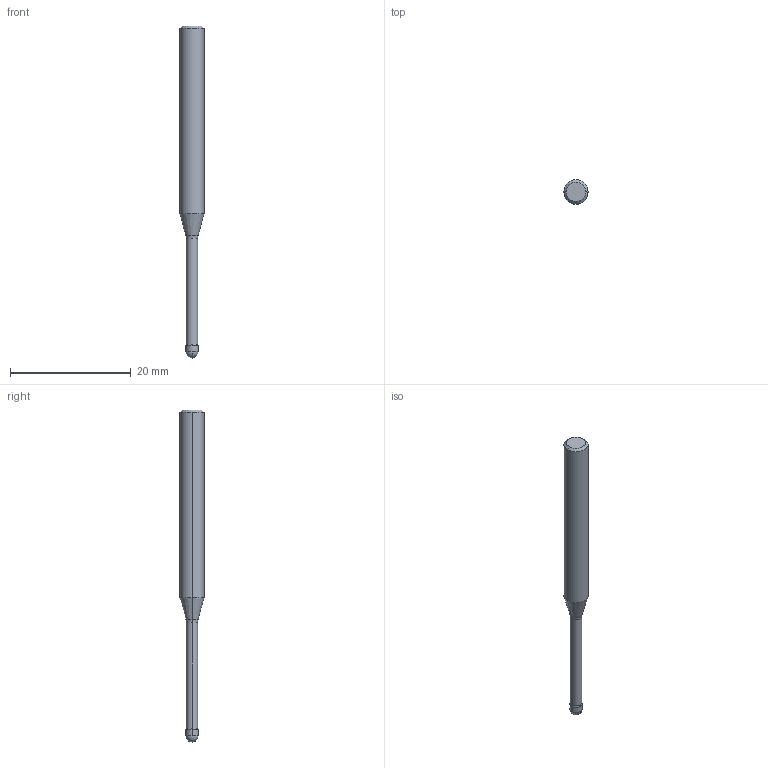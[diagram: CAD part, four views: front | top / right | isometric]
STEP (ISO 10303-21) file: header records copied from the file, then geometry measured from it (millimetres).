
FILE_DESCRIPTION (( 'STEP AP214' ), '1' );
FILE_NAME ('561.586.75_3D-model.step', '2022-02-18T17:43:06', ( '' ), ( '' ), 'SwSTEP 2.0', 'SolidWorks 2020', '' );
FILE_SCHEMA (( 'AUTOMOTIVE_DESIGN' ));
Length unit declared in the file: millimetre
Products named in the file (3): NOCUT-3D^Baugr37; 561.586.75_3D-model; CUT-3D^Baugr37
Assembly tree (2 placements, depth 2):
  561.586.75_3D-model
    CUT-3D^Baugr37
    NOCUT-3D^Baugr37
Bounding box: 4 x 4 x 55 mm (x, y, z)
Volume: 473.9 mm3; surface area: 564 mm2
Topology: 2 solids, 2 shells, 19 faces, 38 edges, 21 vertices
Faces by surface type: cylinder 6, cone 6, plane 3, sphere 2, torus 2
Entity records: 604 total; most frequent: DIRECTION 114, CARTESIAN_POINT 84, ORIENTED_EDGE 72, AXIS2_PLACEMENT_3D 51, EDGE_CURVE 36, CIRCLE 24, VERTEX_POINT 21, EDGE_LOOP 19
